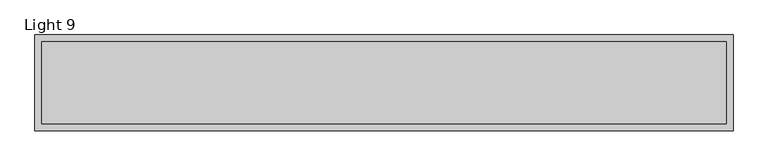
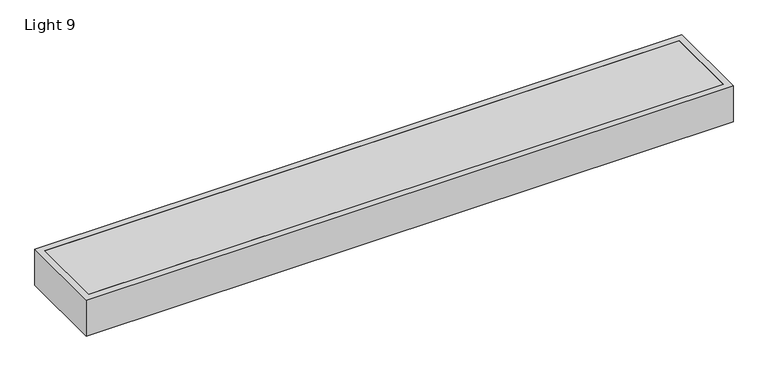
"""IFC4 building model written with IfcOpenShell, lengths in millimetres: light fixture geometry, C_Ceiling Light Rectangular Flushed : Light 9."""

from ifc_helpers import new_model, si_unit, frame, origin, place, context, project, spatial, polyline, outline, extrude, source, transform, mapped, element, save


def light_9_8d0eca55(model_context):
    return source(origin(), model_context, "Body", "SweptSolid", [
        extrude(outline(polyline([(647.7, 88.9), (647.7, -88.9), (-647.7, -88.9), (-647.7, 88.9), (647.7, 88.9)]), holes=[polyline([(635.0, 76.2), (-635.0, 76.2), (-635.0, -76.2), (635.0, -76.2), (635.0, 76.2)])]), frame((0.0, 0.0, 2362.2), z_axis=(0.0, 0.0, 1.0), x_axis=(1.0, 0.0, 0.0)), (0.0, 0.0, 1.0), 76.2),
        extrude(outline(polyline([(635.0, -76.2), (-635.0, -76.2), (-635.0, 76.2), (635.0, 76.2), (635.0, -76.2)])), frame((0.0, 0.0, 2425.7), z_axis=(0.0, 0.0, 1.0), x_axis=(1.0, 0.0, 0.0)), (0.0, 0.0, 1.0), 12.7),
        extrude(outline(polyline([(635.0, 76.2), (635.0, -76.2), (-635.0, -76.2), (-635.0, 76.2), (635.0, 76.2)])), frame((0.0, 0.0, 2362.2), z_axis=(0.0, 0.0, 1.0), x_axis=(1.0, 0.0, 0.0)), (0.0, 0.0, 1.0), 12.7),
    ])


if __name__ == "__main__":
    model = new_model("IFC4")
    model_context = context("Model", 3, world=origin())
    ifc_project = project(units=[si_unit("LENGTHUNIT", "METRE", prefix="MILLI")], contexts=[model_context])
    site = spatial("IfcSite", under=ifc_project)
    building = spatial("IfcBuilding", under=site)
    placement = place(None, origin())
    light_9_shape = light_9_8d0eca55(model_context)
    element("IfcLightFixture", 1, ObjectType="C_Ceiling Light Rectangular Flushed : Light 9", at=placement, inside=building, context=model_context, shape_type="MappedRepresentation", body=[
        mapped(light_9_shape, transform((0.0, 0.0, 0.0), x_axis=(1.0, 0.0, 0.0), y_axis=(0.0, 1.0, 0.0), z_axis=(0.0, 0.0, 1.0))),
    ])
    save(model, "model.ifc")
